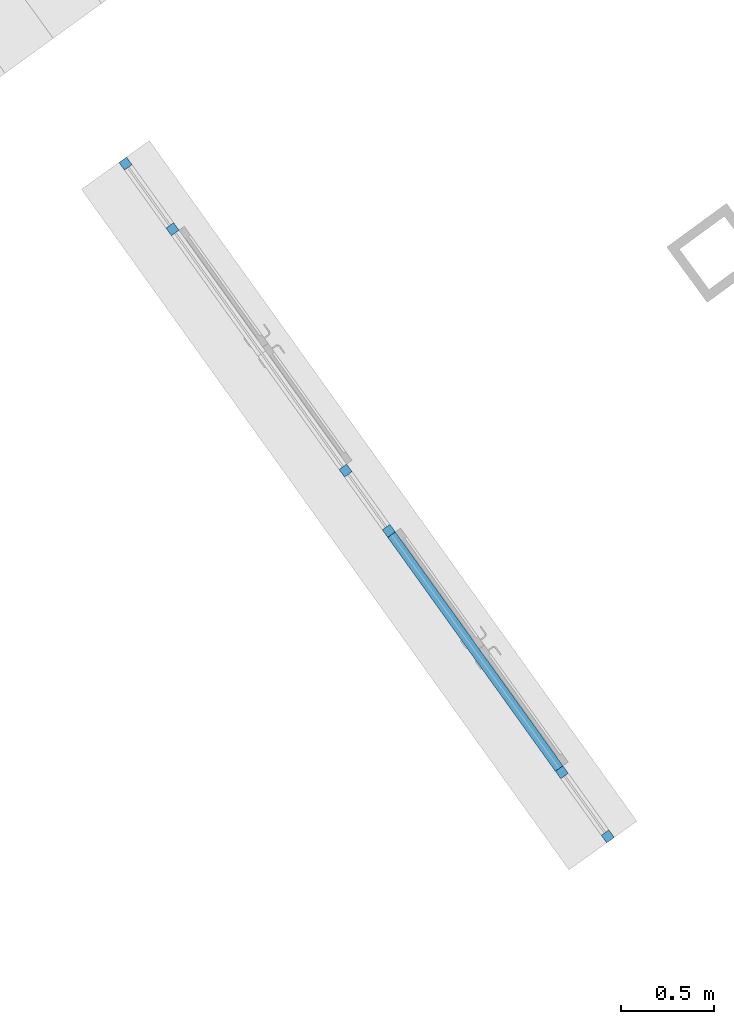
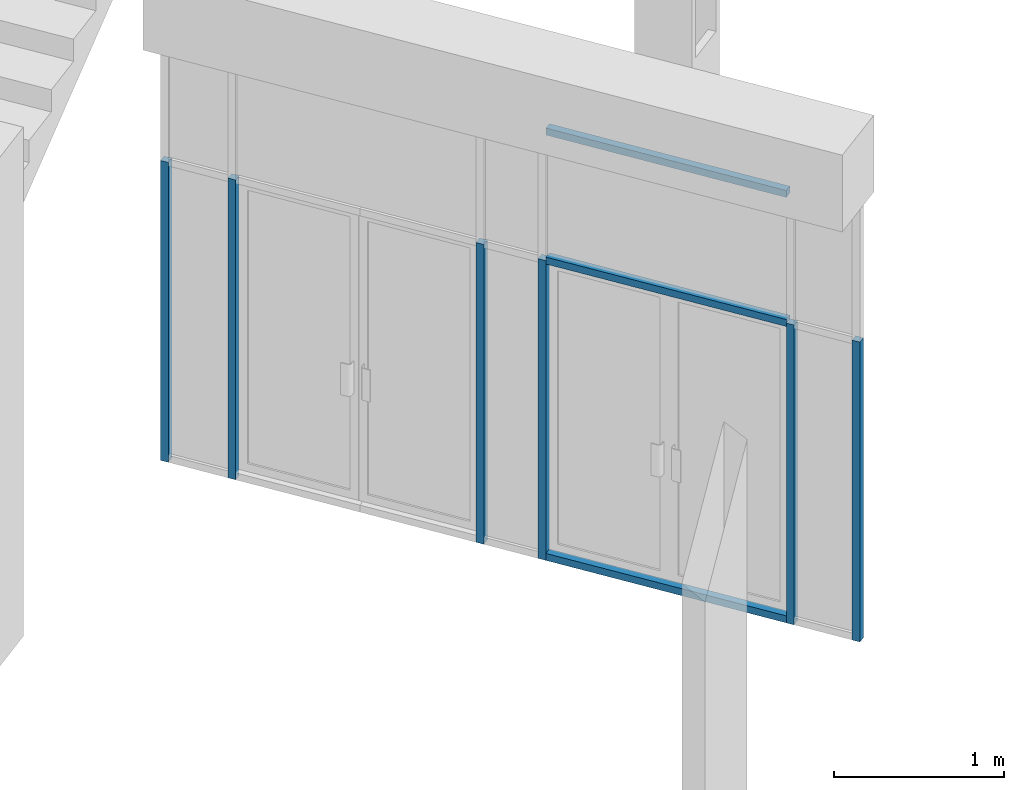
# One storey, part 4 of 24: 9 members, 1 element without a shape of its own.
"""IFC2X3 building model written with IfcOpenShell, lengths in millimetres."""

from ifc_helpers import new_model, entity, si_unit, converted_unit, derived_unit, direction, frame, origin, origin_2d_with_axis, place, context, subcontext, project, spatial, rectangle, extrude, source, transform, mapped, material, type_object, type_shapes, element, aggregate, save


model = new_model("IFC2X3")

# Units and contexts
model_context = context("Model", 3, precision=0.01, world=origin(), true_north=direction((6.123031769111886e-17, 1.0)))
body_context = subcontext(model_context, "Body", "Model", "MODEL_VIEW")
ifc_project = project(units=[si_unit("LENGTHUNIT", "METRE", prefix="MILLI"), si_unit("AREAUNIT", "SQUARE_METRE"), si_unit("VOLUMEUNIT", "CUBIC_METRE"), converted_unit("PLANEANGLEUNIT", "DEGREE", entity("IfcRatioMeasure", 0.017453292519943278), si_unit("PLANEANGLEUNIT", "RADIAN"), dimensions=[0, 0, 0, 0, 0, 0, 0]), si_unit("MASSUNIT", "GRAM", prefix="KILO"), derived_unit("MASSDENSITYUNIT", [(si_unit("MASSUNIT", "GRAM", prefix="KILO"), 1), (si_unit("LENGTHUNIT", "METRE"), -3)]), derived_unit("MOMENTOFINERTIAUNIT", [(si_unit("LENGTHUNIT", "METRE"), 4)]), si_unit("TIMEUNIT", "SECOND"), si_unit("FREQUENCYUNIT", "HERTZ"), si_unit("THERMODYNAMICTEMPERATUREUNIT", "DEGREE_CELSIUS"), derived_unit("THERMALTRANSMITTANCEUNIT", [(si_unit("MASSUNIT", "GRAM", prefix="KILO"), 1), (si_unit("THERMODYNAMICTEMPERATUREUNIT", "KELVIN"), -1), (si_unit("TIMEUNIT", "SECOND"), -3)]), derived_unit("THERMALCONDUCTANCEUNIT", [(si_unit("MASSUNIT", "GRAM", prefix="KILO"), 1), (si_unit("LENGTHUNIT", "METRE"), 1), (si_unit("THERMODYNAMICTEMPERATUREUNIT", "KELVIN"), -1), (si_unit("TIMEUNIT", "SECOND"), -3)]), derived_unit("VOLUMETRICFLOWRATEUNIT", [(si_unit("LENGTHUNIT", "METRE"), 3), (si_unit("TIMEUNIT", "SECOND"), -1)]), derived_unit("MASSFLOWRATEUNIT", [(si_unit("MASSUNIT", "GRAM", prefix="KILO"), 1), (si_unit("TIMEUNIT", "SECOND"), -1)]), derived_unit("ROTATIONALFREQUENCYUNIT", [(si_unit("TIMEUNIT", "SECOND"), -1)]), si_unit("ELECTRICCURRENTUNIT", "AMPERE"), si_unit("ELECTRICVOLTAGEUNIT", "VOLT"), si_unit("POWERUNIT", "WATT"), converted_unit("FORCEUNIT", "KIP", entity("IfcRatioMeasure", 2.088543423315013e-05), si_unit("FORCEUNIT", "NEWTON"), dimensions=[1, 1, -2, 0, 0, 0, 0]), si_unit("ILLUMINANCEUNIT", "LUX"), si_unit("LUMINOUSFLUXUNIT", "LUMEN"), si_unit("LUMINOUSINTENSITYUNIT", "CANDELA"), derived_unit("USERDEFINED", [(si_unit("MASSUNIT", "GRAM", prefix="KILO"), -1), (si_unit("LENGTHUNIT", "METRE"), -2), (si_unit("TIMEUNIT", "SECOND"), 3), (si_unit("LUMINOUSFLUXUNIT", "LUMEN"), 1)]), derived_unit("USERDEFINED", [(si_unit("MASSUNIT", "GRAM", prefix="KILO"), 1), (si_unit("LENGTHUNIT", "METRE"), 3), (si_unit("TIMEUNIT", "SECOND"), -3), (si_unit("ELECTRICCURRENTUNIT", "AMPERE"), -2)]), derived_unit("USERDEFINED", [(si_unit("LENGTHUNIT", "METRE"), 2), (si_unit("TIMEUNIT", "SECOND"), -2)]), derived_unit("SOUNDPOWERUNIT", [(si_unit("MASSUNIT", "GRAM", prefix="KILO"), 1), (si_unit("LENGTHUNIT", "METRE"), 2), (si_unit("TIMEUNIT", "SECOND"), -3)]), derived_unit("SOUNDPRESSUREUNIT", [(si_unit("MASSUNIT", "GRAM", prefix="KILO"), 1), (si_unit("LENGTHUNIT", "METRE"), -1), (si_unit("TIMEUNIT", "SECOND"), -2)]), derived_unit("LINEARVELOCITYUNIT", [(si_unit("LENGTHUNIT", "METRE"), 1), (si_unit("TIMEUNIT", "SECOND"), -1)]), si_unit("PRESSUREUNIT", "PASCAL"), derived_unit("USERDEFINED", [(si_unit("LENGTHUNIT", "METRE"), -2), (si_unit("MASSUNIT", "GRAM", prefix="KILO"), 1), (si_unit("TIMEUNIT", "SECOND"), -2)]), derived_unit("LINEARFORCEUNIT", [(si_unit("MASSUNIT", "GRAM", prefix="KILO"), 1), (si_unit("LENGTHUNIT", "METRE"), 1), (si_unit("TIMEUNIT", "SECOND"), -2), (si_unit("LENGTHUNIT", "METRE"), -1)]), derived_unit("PLANARFORCEUNIT", [(si_unit("MASSUNIT", "GRAM", prefix="KILO"), 1), (si_unit("LENGTHUNIT", "METRE"), 1), (si_unit("TIMEUNIT", "SECOND"), -2), (si_unit("LENGTHUNIT", "METRE"), -2)]), derived_unit("SPECIFICHEATCAPACITYUNIT", [(si_unit("LENGTHUNIT", "METRE"), 2), (si_unit("TIMEUNIT", "SECOND"), -2), (si_unit("THERMODYNAMICTEMPERATUREUNIT", "KELVIN"), -1)]), derived_unit("VAPORPERMEABILITYUNIT", [(si_unit("TIMEUNIT", "SECOND"), 1), (si_unit("LENGTHUNIT", "METRE"), -1)]), derived_unit("DYNAMICVISCOSITYUNIT", [(si_unit("MASSUNIT", "GRAM", prefix="KILO"), 1), (si_unit("LENGTHUNIT", "METRE"), -1), (si_unit("TIMEUNIT", "SECOND"), -1)]), derived_unit("THERMALEXPANSIONCOEFFICIENTUNIT", [(si_unit("THERMODYNAMICTEMPERATUREUNIT", "KELVIN"), -1)])], contexts=[model_context])

# Site, building, storey
site_placement = place(None, frame((0.0, 0.0, 0.0), z_axis=(0.0, 0.0, 1.0), x_axis=(0.8191520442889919, 0.5735764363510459, 0.0)))
site = spatial("IfcSite", under=ifc_project, at=site_placement, Name="Default", CompositionType="ELEMENT")
building_placement = place(site_placement, origin())
building = spatial("IfcBuilding", under=site, at=building_placement, CompositionType="ELEMENT")
storey_placement = place(building_placement, frame((0.0, 0.0, -1150.0)))
storey = spatial("IfcBuildingStorey", under=building, at=storey_placement, Name="6.EG KH -1.15", CompositionType="ELEMENT", Elevation=-1150.0000000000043)

# Curtain wall, members
curtain_wall_type = type_object("IfcCurtainWallType", Name="Curtain Wall:Curtain_Wall_CJC_ENTR_KH", PredefinedType="NOTDEFINED")
curtain_wall_placement = place(storey_placement, frame((0.0, 0.0, 1150.0)))
curtain_wall = element("IfcCurtainWall", 1, at=curtain_wall_placement, inside=storey, type_object=curtain_wall_type, Name="Curtain Wall:Curtain_Wall_CJC_ENTR_KH", ObjectType="Curtain Wall:Curtain_Wall_CJC_ENTR_KH")
ifc_material = material(Name="Aluminium")
member_type_1 = type_object("IfcMemberType", Name="Rectangular Mullion:5x5", PredefinedType="MULLION", material=ifc_material)
shared_shape_1 = source(origin(), body_context, "Body", "SweptSolid", [
    extrude(rectangle(XDim=50.000000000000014, YDim=50.0, at=origin_2d_with_axis()), frame((-25.0, 0.0, -1550.0), z_axis=(0.0, 0.0, 1.0), x_axis=(0.0, -1.0, 0.0)), (0.0, 0.0, 1.0), 1550.0000000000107),
])
type_shapes(member_type_1, [shared_shape_1])
member_1_placement = place(curtain_wall_placement, frame((-189121.74081089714, 190418.35294121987, 1950.0), z_axis=(-0.01108294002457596, 0.999938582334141, 0.0), x_axis=(0.0, 0.0, 1.0)))
member_1 = element("IfcMember", 2, at=member_1_placement, type_object=member_type_1, material=ifc_material, Name="Rectangular Mullion:5x5", ObjectType="Rectangular Mullion:5x5", context=body_context, shape_type="MappedRepresentation", body=[
    mapped(shared_shape_1, transform((0.0, 0.0, 0.0), scale=1.0)),
])
member_type_2 = type_object("IfcMemberType", Name="Rectangular Mullion:5x5", PredefinedType="MULLION", material=ifc_material)
shared_shape_2 = source(origin(), body_context, "Body", "SweptSolid", [
    extrude(rectangle(XDim=50.000000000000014, YDim=50.0, at=origin_2d_with_axis()), frame((-25.0, 0.0, -1550.0), z_axis=(0.0, 0.0, 1.0), x_axis=(0.0, -1.0, 0.0)), (0.0, 0.0, 1.0), 1550.0000000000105),
])
type_shapes(member_type_2, [shared_shape_2])
member_2_placement = place(curtain_wall_placement, frame((-189104.56225385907, 188868.44813860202, -1150.0), z_axis=(0.01108294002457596, -0.999938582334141, 0.0), x_axis=(0.0, 0.0, -1.0)))
member_2 = element("IfcMember", 3, at=member_2_placement, type_object=member_type_2, material=ifc_material, Name="Rectangular Mullion:5x5", ObjectType="Rectangular Mullion:5x5", context=body_context, shape_type="MappedRepresentation", body=[
    mapped(shared_shape_2, transform((0.0, 0.0, 0.0), scale=1.0)),
])
member_type_3 = type_object("IfcMemberType", Name="Rectangular Mullion:5x5", PredefinedType="MULLION", material=ifc_material)
shared_shape_3 = source(origin(), body_context, "Body", "SweptSolid", [
    extrude(rectangle(XDim=49.99999999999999, YDim=50.0, at=origin_2d_with_axis()), frame((-25.0, 0.0, -2150.0), z_axis=(0.0, 0.0, 1.0), x_axis=(0.0, -1.0, 0.0)), (0.0, 0.0, 1.0), 2150.0000000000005),
])
type_shapes(member_type_3, [shared_shape_3])
member_3_placement = place(curtain_wall_placement, frame((-189149.2773561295, 192902.78883467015, -1150.0), z_axis=(0.0, 0.0, -1.0), x_axis=(-0.011082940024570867, 0.999938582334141, 0.0)))
member_3 = element("IfcMember", 4, at=member_3_placement, type_object=member_type_3, material=ifc_material, Name="Rectangular Mullion:5x5", ObjectType="Rectangular Mullion:5x5", context=body_context, shape_type="MappedRepresentation", body=[
    mapped(shared_shape_3, transform((0.0, 0.0, 0.0), scale=1.0)),
])
member_type_4 = type_object("IfcMemberType", Name="Rectangular Mullion:5x5", PredefinedType="MULLION", material=ifc_material)
shared_shape_4 = source(origin(), body_context, "Body", "SweptSolid", [
    extrude(rectangle(XDim=50.0, YDim=50.0, at=origin_2d_with_axis()), frame((0.0, 0.0, -2150.0), z_axis=(0.0, 0.0, 1.0), x_axis=(0.0, -1.0, 0.0)), (0.0, 0.0, 1.0), 2150.0000000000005),
])
type_shapes(member_type_4, [shared_shape_4])
member_4_placement = place(curtain_wall_placement, frame((-189104.28518035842, 188843.44967404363, -1150.0), z_axis=(0.0, 0.0, -1.0), x_axis=(-0.011082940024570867, 0.999938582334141, 0.0)))
member_4 = element("IfcMember", 5, at=member_4_placement, type_object=member_type_4, material=ifc_material, Name="Rectangular Mullion:5x5", ObjectType="Rectangular Mullion:5x5", context=body_context, shape_type="MappedRepresentation", body=[
    mapped(shared_shape_4, transform((0.0, 0.0, 0.0), scale=1.0)),
])
member_5_placement = place(curtain_wall_placement, frame((-189122.01788439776, 190443.35140577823, -1150.0), z_axis=(0.0, 0.0, -1.0), x_axis=(-0.011082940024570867, 0.999938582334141, 0.0)))
member_5 = element("IfcMember", 6, at=member_5_placement, type_object=member_type_4, material=ifc_material, Name="Rectangular Mullion:5x5", ObjectType="Rectangular Mullion:5x5", context=body_context, shape_type="MappedRepresentation", body=[
    mapped(shared_shape_4, transform((0.0, 0.0, 0.0), scale=1.0)),
])
member_6_placement = place(curtain_wall_placement, frame((-189126.45106041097, 190843.32683901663, -1150.0), z_axis=(0.0, 0.0, -1.0), x_axis=(-0.011082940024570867, 0.999938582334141, 0.0)))
member_6 = element("IfcMember", 7, at=member_6_placement, type_object=member_type_4, material=ifc_material, Name="Rectangular Mullion:5x5", ObjectType="Rectangular Mullion:5x5", context=body_context, shape_type="MappedRepresentation", body=[
    mapped(shared_shape_4, transform((0.0, 0.0, 0.0), scale=1.0)),
])
member_7_placement = place(curtain_wall_placement, frame((-189144.18376445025, 192443.22857075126, -1150.0), z_axis=(0.0, 0.0, -1.0), x_axis=(-0.011082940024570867, 0.999938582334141, 0.0)))
member_7 = element("IfcMember", 8, at=member_7_placement, type_object=member_type_4, material=ifc_material, Name="Rectangular Mullion:5x5", ObjectType="Rectangular Mullion:5x5", context=body_context, shape_type="MappedRepresentation", body=[
    mapped(shared_shape_4, transform((0.0, 0.0, 0.0), scale=1.0)),
])
member_type_5 = type_object("IfcMemberType", Name="Rectangular Mullion:5x5", PredefinedType="MULLION", material=ifc_material)
shared_shape_5 = source(origin(), body_context, "Body", "SweptSolid", [
    extrude(rectangle(XDim=50.0, YDim=50.0, at=origin_2d_with_axis()), frame((-25.0, 0.0, -2150.0), z_axis=(0.0, 0.0, 1.0), x_axis=(0.0, -1.0, 0.0)), (0.0, 0.0, 1.0), 2150.0000000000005),
])
type_shapes(member_type_5, [shared_shape_5])
member_8_placement = place(curtain_wall_placement, frame((-189099.29785734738, 188393.47731199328, 1000.0), z_axis=(0.0, 0.0, 1.0), x_axis=(0.011082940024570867, -0.999938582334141, 0.0)))
member_8 = element("IfcMember", 9, at=member_8_placement, type_object=member_type_5, material=ifc_material, Name="Rectangular Mullion:5x5", ObjectType="Rectangular Mullion:5x5", context=body_context, shape_type="MappedRepresentation", body=[
    mapped(shared_shape_5, transform((0.0, 0.0, 0.0), scale=1.0)),
])
member_type_6 = type_object("IfcMemberType", Name="Rectangular Mullion:5x5", PredefinedType="MULLION", material=ifc_material)
shared_shape_6 = source(origin(), body_context, "Body", "SweptSolid", [
    extrude(rectangle(XDim=50.0, YDim=50.0, at=origin_2d_with_axis()), frame((0.0, 0.0, -1550.0), z_axis=(0.0, 0.0, 1.0), x_axis=(0.0, -1.0, 0.0)), (0.0, 0.0, 1.0), 1550.0000000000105),
])
type_shapes(member_type_6, [shared_shape_6])
member_9_placement = place(curtain_wall_placement, frame((-189121.74081089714, 190418.35294121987, 1000.0), z_axis=(-0.01108294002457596, 0.999938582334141, 0.0), x_axis=(0.0, 0.0, 1.0)))
member_9 = element("IfcMember", 10, at=member_9_placement, type_object=member_type_6, material=ifc_material, Name="Rectangular Mullion:5x5", ObjectType="Rectangular Mullion:5x5", context=body_context, shape_type="MappedRepresentation", body=[
    mapped(shared_shape_6, transform((0.0, 0.0, 0.0), scale=1.0)),
])
aggregate(curtain_wall, [member_1, member_2, member_3, member_4, member_5, member_6, member_8, member_9, member_7])

save(model, "model.ifc")
